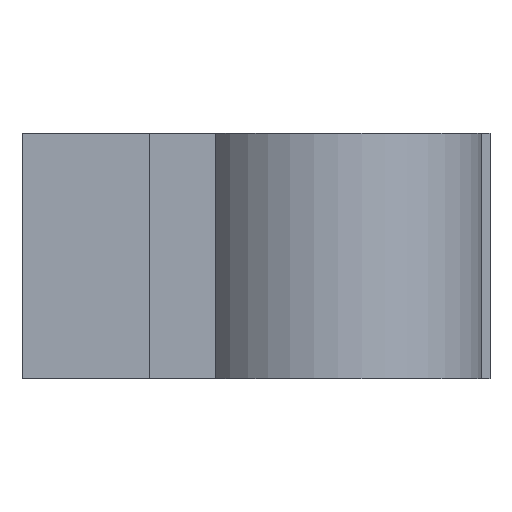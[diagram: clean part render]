
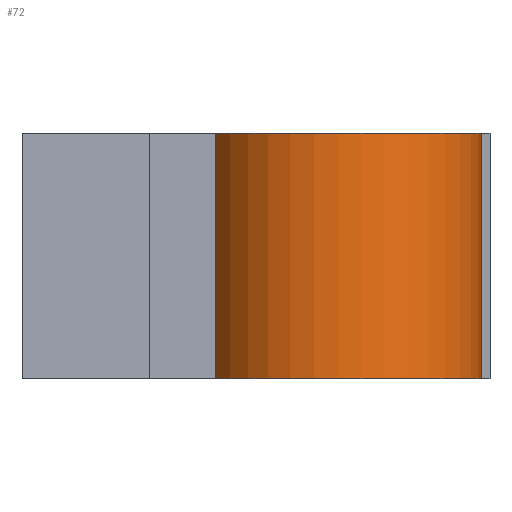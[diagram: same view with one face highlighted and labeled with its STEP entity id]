
A CAD part, front view. The second image highlights one B-rep face of the part: STEP entity #72.
In plain terms, the highlighted cylindrical face has radius 5.88 mm (diameter 11.76 mm), a partial arc.
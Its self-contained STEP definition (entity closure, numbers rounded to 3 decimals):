
#24 = ORIENTED_EDGE ( 'NONE', *, *, #137, .T. ) ;
#36 = DIRECTION ( 'NONE',  ( 1., 0., 0. ) ) ;
#41 = ORIENTED_EDGE ( 'NONE', *, *, #354, .F. ) ;
#48 = LINE ( 'NONE', #171, #66 ) ;
#53 = ORIENTED_EDGE ( 'NONE', *, *, #87, .T. ) ;
#54 = CIRCLE ( 'NONE', #190, 5.88 ) ;
#61 = ORIENTED_EDGE ( 'NONE', *, *, #328, .F. ) ;
#66 = VECTOR ( 'NONE', #267, 1000. ) ;
#72 = ADVANCED_FACE ( 'NONE', ( #185 ), #222, .T. ) ;
#87 = EDGE_CURVE ( 'NONE', #361, #261, #54, .T. ) ;
#92 = CARTESIAN_POINT ( 'NONE',  ( 12.83, 16.494, -10. ) ) ;
#99 = DIRECTION ( 'NONE',  ( 0., 0., 1. ) ) ;
#107 = VERTEX_POINT ( 'NONE', #326 ) ;
#112 = CIRCLE ( 'NONE', #205, 5.88 ) ;
#118 = CARTESIAN_POINT ( 'NONE',  ( 16.248, 21.278, 0. ) ) ;
#137 = EDGE_CURVE ( 'NONE', #261, #302, #48, .T. ) ;
#149 = CARTESIAN_POINT ( 'NONE',  ( 12.83, 16.494, 0. ) ) ;
#171 = CARTESIAN_POINT ( 'NONE',  ( 16.248, 21.278, -10. ) ) ;
#181 = DIRECTION ( 'NONE',  ( 0., 0., 1. ) ) ;
#185 = FACE_OUTER_BOUND ( 'NONE', #295, .T. ) ;
#190 = AXIS2_PLACEMENT_3D ( 'NONE', #92, #319, #36 ) ;
#205 = AXIS2_PLACEMENT_3D ( 'NONE', #149, #396, #210 ) ;
#210 = DIRECTION ( 'NONE',  ( 1., 0., 0. ) ) ;
#222 = CYLINDRICAL_SURFACE ( 'NONE', #388, 5.88 ) ;
#225 = VECTOR ( 'NONE', #181, 1000. ) ;
#261 = VERTEX_POINT ( 'NONE', #271 ) ;
#267 = DIRECTION ( 'NONE',  ( 0., 0., 1. ) ) ;
#271 = CARTESIAN_POINT ( 'NONE',  ( 16.248, 21.278, -10. ) ) ;
#272 = LINE ( 'NONE', #366, #225 ) ;
#295 = EDGE_LOOP ( 'NONE', ( #41, #61, #53, #24 ) ) ;
#302 = VERTEX_POINT ( 'NONE', #118 ) ;
#319 = DIRECTION ( 'NONE',  ( 0., 0., 1. ) ) ;
#326 = CARTESIAN_POINT ( 'NONE',  ( 7.877, 13.325, 0. ) ) ;
#328 = EDGE_CURVE ( 'NONE', #361, #107, #272, .T. ) ;
#339 = CARTESIAN_POINT ( 'NONE',  ( 7.877, 13.325, -10. ) ) ;
#348 = CARTESIAN_POINT ( 'NONE',  ( 12.83, 16.494, -10. ) ) ;
#354 = EDGE_CURVE ( 'NONE', #107, #302, #112, .T. ) ;
#361 = VERTEX_POINT ( 'NONE', #339 ) ;
#366 = CARTESIAN_POINT ( 'NONE',  ( 7.877, 13.325, -10. ) ) ;
#384 = DIRECTION ( 'NONE',  ( 1., 0., 0. ) ) ;
#388 = AXIS2_PLACEMENT_3D ( 'NONE', #348, #99, #384 ) ;
#396 = DIRECTION ( 'NONE',  ( 0., 0., 1. ) ) ;
